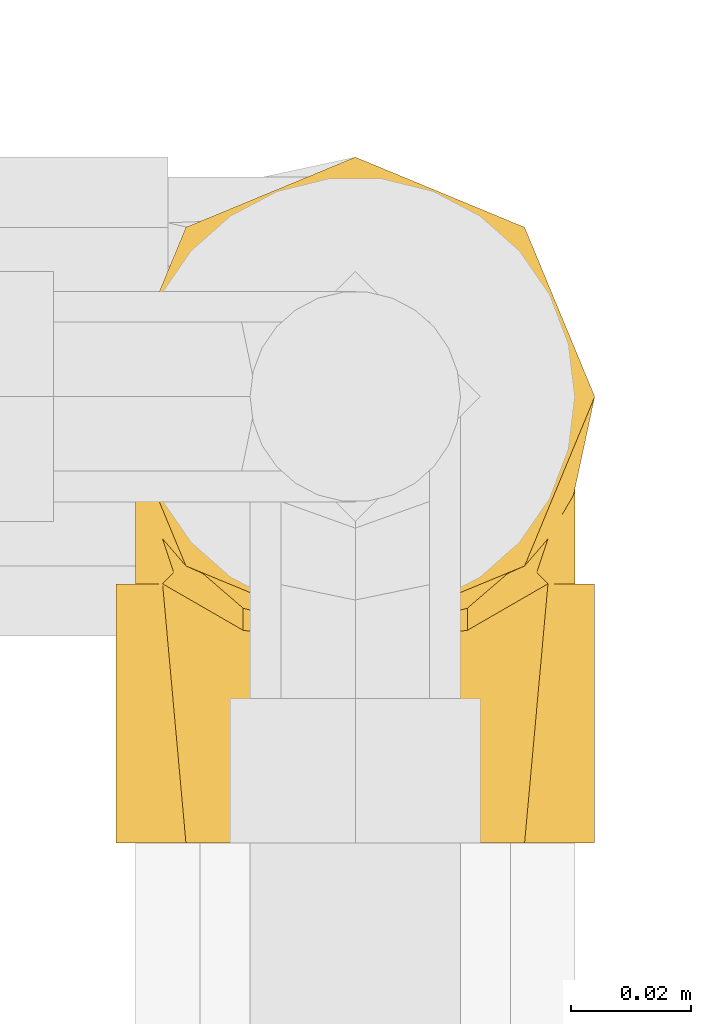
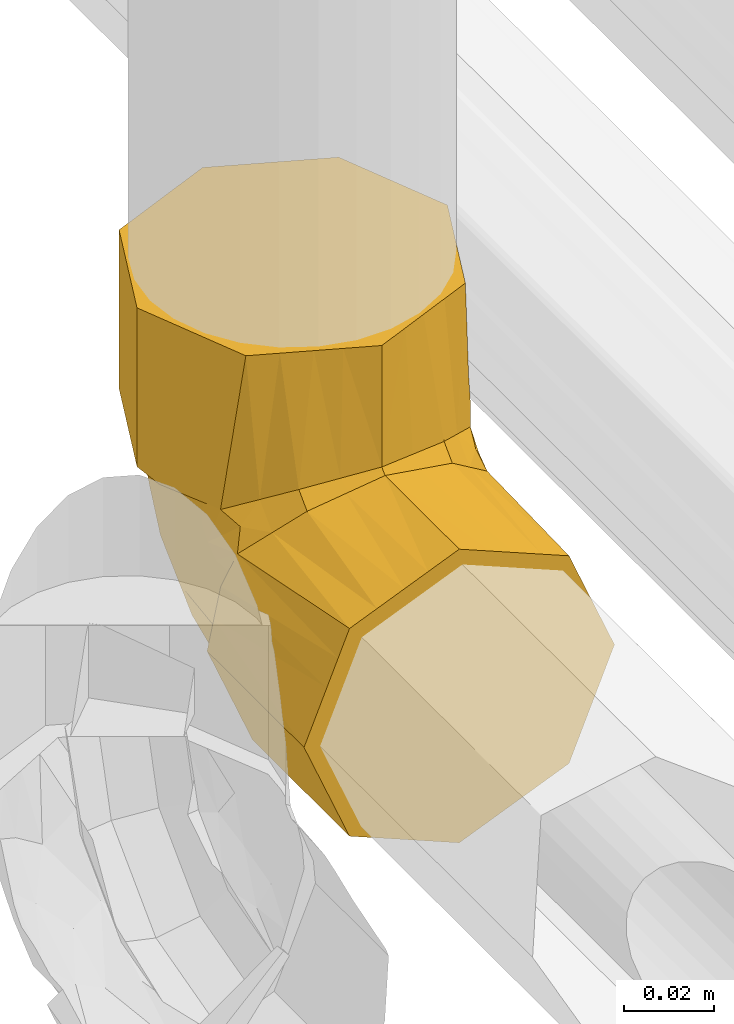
# One storey, part 266 of 652: 1 covering.
"""IFC2X3 building model written with IfcOpenShell, lengths in millimetres."""

from ifc_helpers import new_model, entity, si_unit, converted_unit, direction, frame, origin, place, context, subcontext, project, spatial, faceted_brep, material, type_object, element, save


model = new_model("IFC2X3")

# Units and contexts
model_context = context("Model", 3, precision=0.01, world=frame((0.0, 0.0, 308426.39999999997)), true_north=direction((6.123233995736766e-17, 1.0)))
plan_context = context("Plan", 3, precision=0.01, world=frame((0.0, 0.0, 308426.39999999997)), true_north=direction((6.123233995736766e-17, 1.0)))
body_context = subcontext(model_context, "Body", "Model", "MODEL_VIEW")
ifc_project = project(units=[si_unit("LENGTHUNIT", "METRE", prefix="MILLI"), si_unit("AREAUNIT", "SQUARE_METRE"), si_unit("VOLUMEUNIT", "CUBIC_METRE"), converted_unit("PLANEANGLEUNIT", "DEGREE", entity("IfcPlaneAngleMeasure", 0.017453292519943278), si_unit("PLANEANGLEUNIT", "RADIAN"), dimensions=[0, 0, 0, 0, 0, 0, 0])], contexts=[model_context, plan_context])

# Site, building, storey
site_placement = place(None, origin())
site = spatial("IfcSite", under=ifc_project, at=site_placement, Name="Default", CompositionType="ELEMENT")
building_placement = place(site_placement, origin())
building = spatial("IfcBuilding", under=site, at=building_placement, CompositionType="ELEMENT")
storey_placement = place(building_placement, frame((0.0, 0.0, 1730.6999999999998)))
storey = spatial("IfcBuildingStorey", under=building, at=storey_placement, Name="EG_Produktion_FFB", CompositionType="ELEMENT", Elevation=1730.6999999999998)

# Covering
ifc_material = material(Name="Dämmung - Armaflex-Schlauch")
covering_type = type_object("IfcCoveringType", Name="Rohrdämmung außen:Armaflex-Schlauch", PredefinedType="INSULATION")
covering_placement = place(storey_placement, frame((77638.64672776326, 68090.91574999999, 3558.646727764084)))
element("IfcCovering", 1, at=covering_placement, inside=storey, type_object=covering_type, material=ifc_material, Name="Rohrdämmung außen:Armaflex-Schlauch", ObjectType="Rohrdämmung außen:Armaflex-Schlauch", PredefinedType="INSULATION", context=body_context, shape_type="Brep", body=[
    faceted_brep([(76.62300673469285, 60.144076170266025, 72.43177223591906), (77.08951820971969, 64.13185283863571, 72.43177223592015), (77.81577223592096, 70.33992920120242, 72.43177223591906), (74.37467999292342, 77.97579246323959, 72.43177223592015), (70.93358774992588, 85.61165572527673, 72.43177223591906), (67.70657048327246, 92.7724816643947, 72.43177223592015), (64.47955321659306, 99.933307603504, 72.43177223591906), (52.916412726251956, 104.1842912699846, 72.43177223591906), (41.35327223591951, 108.43527493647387, 72.43177223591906), (34.139683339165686, 104.78589932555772, 72.43177223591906), (26.926094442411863, 101.13652371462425, 72.43177223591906), (19.712505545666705, 97.48714810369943, 72.43177223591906), (12.498916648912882, 93.83777249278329, 72.43177223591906), (10.12212716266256, 86.49703027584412, 72.43177223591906), (7.506449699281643, 78.41847973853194, 72.43177223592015), (4.890772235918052, 70.33992920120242, 72.43177223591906), (5.617026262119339, 64.13185283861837, 72.43177223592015), (6.083537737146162, 60.144076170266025, 72.43177223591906), (7.721836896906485, 55.31227974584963, 72.43177223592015), (9.36013605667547, 50.48048332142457, 72.43177223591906), (5.923104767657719, 58.097888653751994, 72.43177223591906), (2.486073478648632, 65.71529398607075, 72.43177223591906), (1.5952722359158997, 74.08425000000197, 72.43177223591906), (4.907228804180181, 82.08002046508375, 72.43177223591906), (7.417696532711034, 88.14082570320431, 72.43177223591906), (10.3289086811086, 95.16911355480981, 72.43177223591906), (13.240120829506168, 102.19740140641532, 72.43177223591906), (20.26840868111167, 105.10861355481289, 72.43177223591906), (27.296696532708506, 108.01982570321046, 72.43177223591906), (34.32498438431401, 110.93103785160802, 72.43177223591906), (41.35327223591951, 113.84224999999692, 72.43177223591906), (49.349042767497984, 110.53029340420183, 72.43177223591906), (55.40984793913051, 108.01982570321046, 72.43177223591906), (62.43813579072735, 105.10861355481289, 72.43177223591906), (69.46642364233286, 102.19740140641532, 72.43177223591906), (72.37763579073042, 95.16911355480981, 72.43177223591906), (75.28884793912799, 88.14082570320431, 72.43177223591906), (77.79931619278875, 82.0800191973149, 72.43177223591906), (81.11127223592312, 74.08425000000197, 72.43177223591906), (79.3520811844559, 65.9082384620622, 72.43177223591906), (77.59289013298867, 57.73222692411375, 72.43177223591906), (73.34640841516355, 50.48048332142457, 72.43177223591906), (74.98470757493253, 55.31227974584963, 72.43177223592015), (4.506484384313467, 67.05596214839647, 115.43752223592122), (7.417696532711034, 60.02767429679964, 115.43752223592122), (10.328908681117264, 52.9993864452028, 115.43752223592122), (13.240120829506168, 45.971098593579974, 115.43752223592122), (20.26840868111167, 43.05988644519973, 115.43752223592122), (27.296696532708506, 40.1486742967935, 115.43752223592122), (33.35750154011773, 37.63820666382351, 115.43752223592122), (41.35327223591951, 34.32624999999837, 115.43752223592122), (49.34904130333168, 37.63820598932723, 115.43752223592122), (55.40984793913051, 40.1486742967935, 115.43752223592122), (62.43813579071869, 43.05988644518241, 115.43752223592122), (69.46642364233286, 45.971098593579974, 115.43752223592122), (72.37763579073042, 52.99938644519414, 115.43752223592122), (75.28884793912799, 60.02767429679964, 115.43752223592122), (78.20006008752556, 67.05596214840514, 115.43752223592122), (81.11127223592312, 74.08425000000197, 115.43752223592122), (78.20006008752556, 81.11253785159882, 115.43752223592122), (75.28884793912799, 88.14082570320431, 115.43752223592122), (72.37763579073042, 95.16911355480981, 115.43752223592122), (69.46642364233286, 102.19740140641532, 115.43752223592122), (62.43813579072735, 105.10861355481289, 115.43752223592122), (55.40984793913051, 108.01982570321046, 115.43752223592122), (48.38156008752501, 110.93103785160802, 115.43752223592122), (41.35327223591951, 113.84224999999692, 115.43752223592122), (34.32498438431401, 110.93103785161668, 115.43752223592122), (27.296696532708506, 108.01982570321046, 115.43752223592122), (20.26840868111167, 105.10861355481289, 115.43752223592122), (13.240120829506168, 102.19740140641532, 115.43752223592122), (8.219185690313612, 90.0757916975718, 115.43752223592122), (4.907228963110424, 82.08002084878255, 115.43752223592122), (1.5952722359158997, 74.08425000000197, 115.43752223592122), (16.057183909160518, 44.71268924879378, 76.29438305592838), (41.35327223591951, 34.32624999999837, 82.55017689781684), (32.053751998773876, 36.63557258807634, 81.35358538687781), (22.754231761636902, 38.94489517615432, 80.15699387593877), (27.40399188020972, 37.79023388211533, 80.75528963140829), (66.6493605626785, 44.71268924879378, 76.29438305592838), (50.65279247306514, 36.63557258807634, 81.35358538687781), (59.952312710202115, 38.94489517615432, 80.15699387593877), (45.661736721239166, 35.39615835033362, 81.99579646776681), (81.11127223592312, 43.00574999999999, 41.35327223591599), (77.7993156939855, 43.00574999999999, 33.35750183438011), (75.28884793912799, 43.00574999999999, 27.296696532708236), (72.37763579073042, 43.00574999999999, 20.2684086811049), (69.46642364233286, 43.00574999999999, 13.240120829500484), (62.43813579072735, 43.00574999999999, 10.328908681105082), (55.40984793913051, 43.00574999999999, 7.4176965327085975), (49.34904137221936, 43.00574999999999, 4.907228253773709), (41.35327223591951, 43.00574999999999, 1.595272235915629), (33.357502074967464, 43.00574999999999, 4.907228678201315), (27.296696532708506, 43.00574999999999, 7.4176965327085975), (20.26840868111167, 43.00574999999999, 10.328908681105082), (13.240120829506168, 43.00574999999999, 13.240120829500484), (10.3289086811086, 43.00574999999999, 20.2684086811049), (7.417696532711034, 43.00574999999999, 27.296696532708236), (4.506484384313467, 43.00574999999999, 34.32498438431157), (1.5952722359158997, 43.00574999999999, 41.35327223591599), (3.3544632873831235, 43.00574999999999, 49.52928377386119), (5.113654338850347, 43.00574999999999, 57.705295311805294), (9.36013605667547, 43.00574999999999, 64.95703891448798), (7.721836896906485, 43.00574999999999, 60.12524249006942), (6.083537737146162, 43.00574999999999, 55.29344606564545), (5.617026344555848, 43.00574999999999, 51.305670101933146), (5.253899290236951, 43.00575000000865, 48.20163156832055), (4.890772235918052, 43.00574999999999, 45.09759303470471), (8.224826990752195, 43.00574999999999, 37.69924843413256), (11.558881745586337, 43.00574999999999, 30.30090383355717), (14.892936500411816, 43.00574999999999, 22.90255923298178), (18.22699125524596, 43.00574999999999, 15.504214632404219), (24.00856150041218, 43.00574999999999, 13.378722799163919), (29.790131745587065, 43.00574999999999, 11.253230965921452), (41.35327223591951, 43.00574999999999, 7.00224729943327), (48.56686113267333, 43.00574999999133, 10.651622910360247), (55.78045002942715, 43.00574999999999, 14.300998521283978), (62.99403892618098, 43.00574999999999, 17.950374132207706), (70.2076278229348, 43.00574999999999, 21.599749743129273), (72.10966392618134, 43.00574999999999, 27.47421056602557), (74.01170002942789, 43.00574999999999, 33.3486713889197), (77.81577223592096, 43.00574999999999, 45.097593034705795), (77.45264518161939, 43.00574999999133, 48.20163156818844), (77.08951812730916, 43.00574999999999, 51.30567010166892), (76.62300673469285, 43.00574999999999, 55.29344606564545), (74.98470757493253, 43.00574999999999, 60.12524249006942), (73.34640841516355, 43.00574999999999, 64.95703891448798), (76.78343970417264, 43.00574999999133, 57.33963358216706), (80.22047099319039, 43.00574999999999, 49.72222824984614), (4.506484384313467, 0.0, 34.32498438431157), (7.417696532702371, 0.0, 27.296696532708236), (10.3289086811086, 0.0, 20.2684086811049), (13.240120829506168, 0.0, 13.240120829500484), (25.361730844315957, 0.0, 8.219185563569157), (33.35750154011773, 0.0, 4.907228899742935), (41.35327223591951, 0.0, 1.595272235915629), (48.38156008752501, 0.0, 4.506484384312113), (55.40984793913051, 0.0, 7.4176965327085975), (62.43813579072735, 0.0, 10.328908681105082), (69.46642364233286, 0.0, 13.240120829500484), (72.37763579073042, 0.0, 20.2684086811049), (75.28884793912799, 0.0, 27.296696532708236), (78.20006008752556, 0.0, 34.32498438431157), (81.11127223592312, 0.0, 41.35327223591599), (78.20006008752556, 0.0, 48.381560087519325), (75.28884793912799, 0.0, 55.40984793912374), (72.37763579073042, 0.0, 62.43813579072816), (69.46642364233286, 0.0, 69.46642364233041), (62.43813579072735, 0.0, 72.37763579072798), (55.40984793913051, 0.0, 75.28884793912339), (49.34904309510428, 0.0, 77.79931550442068), (41.35327223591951, 0.0, 81.11127223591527), (33.357503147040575, 0.0, 77.79931623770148), (27.296696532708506, 0.0, 75.28884793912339), (20.26840868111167, 0.0, 72.3776357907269), (13.240120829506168, 0.0, 69.46642364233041), (10.3289086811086, 0.0, 62.43813579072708), (7.417696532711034, 0.0, 55.40984793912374), (4.907228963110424, 0.0, 49.3490430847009), (1.5952722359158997, 0.0, 41.35327223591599), (41.35327223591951, 32.88734533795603, 81.11127223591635), (32.05375199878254, 34.08393684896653, 78.80194964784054), (22.754231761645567, 35.28052835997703, 76.49262705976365), (32.73634342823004, 33.99610617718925, 78.9714555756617), (16.057183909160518, 39.14313917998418, 70.72483298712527), (66.6493605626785, 39.14313917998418, 70.72483298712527), (50.65279247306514, 34.08393684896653, 78.80194964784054), (59.95231271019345, 35.28052835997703, 76.49262705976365), (49.97020104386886, 33.99610617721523, 78.97145557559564), (45.661736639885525, 33.44172575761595, 80.0413639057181), (12.120840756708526, 58.15798394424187, 28.191891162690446), (11.864597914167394, 86.24095977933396, 56.18214307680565), (8.378054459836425, 75.44074579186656, 50.651839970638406), (4.890772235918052, 63.77170858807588, 60.99290399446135), (5.704430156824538, 71.00987826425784, 57.90068245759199), (5.818095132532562, 60.331775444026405, 45.89691656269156), (14.280504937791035, 74.68952203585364, 36.824791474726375), (17.28056825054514, 90.56777273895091, 51.80452200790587), (41.35327223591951, 77.92193606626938, 23.738422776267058), (33.2832979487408, 68.63523148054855, 18.343722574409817), (32.936990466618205, 87.87776584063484, 34.50848979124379), (41.35327223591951, 100.80694021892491, 60.2584348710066), (31.923106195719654, 100.51907102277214, 53.7239646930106), (20.52086951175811, 79.2111421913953, 33.526882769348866), (4.890772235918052, 45.389360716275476, 46.9221287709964), (4.890772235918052, 47.77297143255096, 48.74666450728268), (4.890772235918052, 52.54019286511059, 52.39573597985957), (4.890772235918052, 58.15595072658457, 56.69431998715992), (17.18561506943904, 60.497283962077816, 23.195268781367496), (23.49848008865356, 90.87485767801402, 44.19541988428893), (22.48243663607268, 98.10238846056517, 58.02828772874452), (24.51166214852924, 69.59848600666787, 22.77241248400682), (26.852776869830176, 81.49627628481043, 30.82883287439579), (41.35327223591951, 60.46384303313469, 15.370335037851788), (41.35327223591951, 59.30685202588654, 14.815761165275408), (41.35327223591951, 93.17860550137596, 48.08509750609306), (41.35327223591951, 89.44118018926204, 42.12089419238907), (41.35327223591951, 85.55027078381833, 35.91176014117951), (26.95482375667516, 57.682944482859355, 14.939393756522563), (8.90939071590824, 62.35315634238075, 36.834059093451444), (41.35327223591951, 98.93822756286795, 57.276333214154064), (4.890772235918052, 67.32420901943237, 67.17975226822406), (5.540058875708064, 59.547719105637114, 66.8260998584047), (6.751916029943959, 54.28952280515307, 67.53281751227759), (41.35327223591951, 33.63371593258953, 81.80380630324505), (6.670824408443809, 51.45915617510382, 63.97836554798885), (11.210836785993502, 44.908883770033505, 70.52863875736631), (6.751916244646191, 47.904704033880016, 61.14799970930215), (5.555021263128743, 48.5166417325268, 55.918821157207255), (77.16648559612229, 59.54771910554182, 66.8260998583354), (77.81577223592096, 67.32420901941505, 67.17975226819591), (71.49570746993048, 44.90888341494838, 70.52863885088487), (76.03571971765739, 51.45915542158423, 63.978366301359), (75.95462843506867, 54.289522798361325, 67.53281753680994), (77.81577223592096, 58.15595072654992, 56.69431998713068), (75.95462822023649, 47.904704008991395, 61.14799971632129), (77.15152320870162, 48.51664173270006, 55.91882115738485), (77.81577223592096, 47.77297143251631, 48.74666450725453), (77.81577223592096, 63.77170858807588, 60.99290399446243), (77.81577223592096, 45.389360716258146, 46.922128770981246), (77.81577223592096, 52.54019286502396, 52.395735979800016), (74.80598737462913, 77.88884430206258, 55.82565961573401), (71.5622524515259, 85.68390575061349, 57.28959429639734), (75.79919171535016, 57.20212685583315, 39.02450620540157), (50.8847120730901, 85.21783817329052, 32.063467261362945), (65.94296495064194, 76.99963686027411, 35.56661217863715), (73.58946657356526, 68.28685011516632, 40.993703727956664), (68.10768824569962, 64.58632217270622, 28.53498924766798), (76.81449307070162, 64.72447259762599, 49.33889122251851), (76.81985109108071, 73.0393897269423, 59.448940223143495), (67.36791849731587, 85.65544995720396, 47.62726014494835), (60.18508487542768, 75.83338581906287, 28.791268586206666), (51.08904624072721, 65.65295551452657, 17.08473225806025), (60.01109950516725, 60.45142062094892, 18.640175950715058), (73.08709853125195, 57.30670812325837, 32.102457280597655), (58.13792656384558, 95.65270419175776, 50.634728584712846), (61.63866824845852, 86.33050767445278, 40.67615020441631), (65.97235995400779, 94.01862068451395, 59.442278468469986), (49.62375736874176, 97.03201021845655, 46.78958221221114)], [[[0, 1, 2, 3, 4, 5, 6, 7, 8, 9, 10, 11, 12, 13, 14, 15, 16, 17, 18, 19, 20, 21, 22, 23, 24, 25, 26, 27, 28, 29, 30, 31, 32, 33, 34, 35, 36, 37, 38, 39, 40, 41, 42]], [[43, 44, 45, 46, 47, 48, 49, 50, 51, 52, 53, 54, 55, 56, 57, 58, 59, 60, 61, 62, 63, 64, 65, 66, 67, 68, 69, 70, 71, 72, 73]], [[47, 46, 74]], [[75, 50, 49]], [[76, 75, 49]], [[48, 77, 78, 76]], [[47, 74, 77]], [[44, 20, 45]], [[43, 21, 44]], [[46, 19, 74]], [[77, 48, 47]], [[44, 21, 20]], [[43, 22, 21]], [[48, 76, 49]], [[43, 73, 22]], [[45, 20, 19]], [[19, 46, 45]], [[23, 22, 73, 72, 71, 70, 26, 25, 24]], [[26, 70, 69, 68, 67, 66, 30, 29, 28, 27]], [[38, 37, 36, 35, 34, 62, 61, 60, 59, 58]], [[30, 66, 65, 64, 63, 62, 34, 33, 32, 31]], [[56, 40, 39]], [[53, 79, 54]], [[39, 57, 56]], [[41, 55, 54]], [[40, 55, 41]], [[80, 52, 51]], [[52, 80, 81]], [[58, 57, 38]], [[51, 75, 82, 80]], [[38, 57, 39]], [[79, 53, 81]], [[55, 40, 56]], [[51, 50, 75]], [[53, 52, 81]], [[79, 41, 54]], [[83, 84, 85, 86, 87, 88, 89, 90, 91, 92, 93, 94, 95, 96, 97, 98, 99, 100, 101, 102, 103, 104, 105, 106, 107, 108, 109, 110, 111, 112, 113, 114, 115, 116, 117, 118, 119, 120, 121, 122, 123, 124, 125, 126, 127, 128]], [[129, 130, 131, 132, 133, 134, 135, 136, 137, 138, 139, 140, 141, 142, 143, 144, 145, 146, 147, 148, 149, 150, 151, 152, 153, 154, 155, 156, 157, 158, 159]], [[135, 134, 133, 132, 95, 94, 93, 92, 91]], [[95, 132, 131, 130, 129, 159, 99, 98, 97, 96]], [[159, 158, 157, 100]], [[101, 156, 102]], [[99, 159, 100]], [[101, 100, 157]], [[152, 151, 160]], [[102, 156, 155]], [[153, 161, 162]], [[161, 153, 152]], [[152, 160, 163, 161]], [[154, 164, 155]], [[164, 154, 162]], [[156, 101, 157]], [[154, 153, 162]], [[164, 102, 155]], [[148, 147, 165]], [[149, 166, 150]], [[166, 149, 167]], [[160, 151, 150]], [[148, 165, 167]], [[145, 127, 146]], [[144, 128, 145]], [[147, 126, 165]], [[167, 149, 148]], [[145, 128, 127]], [[144, 83, 128]], [[150, 166, 168, 169, 160]], [[144, 143, 83]], [[146, 127, 126]], [[126, 147, 146]], [[91, 90, 89, 88, 87, 139, 138, 137, 136, 135]], [[141, 140, 139, 87, 86, 85, 84, 83, 143, 142]], [[109, 170, 110]], [[13, 171, 172]], [[14, 13, 172]], [[173, 174, 175]], [[176, 171, 177]], [[15, 14, 174]], [[178, 179, 180]], [[9, 181, 182]], [[172, 175, 174]], [[13, 12, 171]], [[12, 11, 177]], [[176, 177, 183]], [[175, 107, 184, 185, 186, 187, 173]], [[188, 170, 176]], [[176, 172, 171]], [[189, 190, 182]], [[11, 10, 190]], [[177, 11, 190]], [[170, 188, 110]], [[191, 183, 192]], [[179, 178, 193, 194]], [[182, 190, 10]], [[182, 195, 180]], [[177, 190, 189]], [[182, 10, 9]], [[180, 195, 196, 197, 178]], [[177, 189, 183]], [[177, 171, 12]], [[113, 179, 194]], [[189, 182, 180]], [[112, 111, 198, 113]], [[198, 111, 188]], [[194, 114, 113]], [[179, 191, 192]], [[199, 175, 172]], [[199, 108, 175]], [[172, 176, 199]], [[188, 111, 110]], [[199, 170, 109]], [[183, 188, 176]], [[108, 199, 109]], [[188, 191, 198]], [[108, 107, 175]], [[176, 170, 199]], [[192, 189, 180]], [[188, 183, 191]], [[189, 192, 183]], [[179, 192, 180]], [[181, 9, 8]], [[182, 181, 200, 195]], [[191, 179, 198]], [[179, 113, 198]], [[174, 173, 201, 15]], [[172, 174, 14]], [[173, 202, 201]], [[173, 187, 203]], [[18, 203, 19]], [[201, 17, 16, 15]], [[204, 76, 163]], [[74, 164, 162, 77]], [[163, 76, 78, 77, 162, 161]], [[205, 102, 206]], [[206, 164, 74]], [[106, 105, 104, 185, 184, 107]], [[205, 207, 102]], [[186, 185, 208, 187]], [[204, 75, 76]], [[163, 160, 204]], [[205, 206, 19]], [[164, 206, 102]], [[203, 205, 19]], [[19, 206, 74]], [[201, 202, 17]], [[17, 202, 18]], [[203, 202, 173]], [[18, 202, 203]], [[102, 207, 103]], [[103, 208, 104]], [[207, 205, 187]], [[208, 103, 207]], [[208, 185, 104]], [[187, 208, 207]], [[203, 187, 205]], [[204, 160, 169]], [[209, 210, 0]], [[169, 168, 166, 167, 81, 80, 82]], [[41, 211, 212]], [[1, 0, 210, 2]], [[213, 212, 214]], [[204, 169, 82]], [[79, 165, 211]], [[126, 125, 215]], [[212, 211, 126]], [[204, 82, 75]], [[167, 165, 79, 81]], [[216, 124, 217]], [[218, 209, 213]], [[122, 121, 219, 217, 124, 123]], [[41, 79, 211]], [[211, 165, 126]], [[209, 0, 42]], [[125, 124, 216]], [[126, 215, 212]], [[125, 216, 215]], [[220, 214, 216, 217]], [[213, 42, 41]], [[212, 213, 41]], [[210, 209, 218]], [[214, 212, 215]], [[209, 42, 213]], [[215, 216, 214]], [[218, 213, 214]], [[4, 221, 222]], [[223, 121, 120]], [[224, 178, 197, 196]], [[225, 226, 227]], [[228, 226, 221]], [[229, 218, 228]], [[222, 226, 230]], [[231, 232, 224]], [[3, 229, 221]], [[233, 232, 231]], [[234, 223, 120]], [[229, 2, 210, 218]], [[224, 235, 236]], [[4, 3, 221]], [[228, 218, 214, 220, 217, 219, 121]], [[237, 222, 230]], [[6, 235, 7]], [[235, 6, 237]], [[238, 200, 7]], [[228, 223, 226]], [[224, 238, 235]], [[234, 226, 223]], [[227, 117, 233]], [[193, 232, 115]], [[224, 232, 178]], [[115, 114, 194, 193]], [[235, 237, 236]], [[238, 224, 196]], [[226, 222, 221]], [[222, 237, 5]], [[5, 237, 6]], [[5, 4, 222]], [[237, 230, 236]], [[7, 200, 181, 8]], [[7, 235, 238]], [[238, 196, 195, 200]], [[227, 118, 117]], [[193, 178, 232]], [[231, 236, 225]], [[233, 117, 116]], [[232, 233, 116]], [[227, 233, 231]], [[229, 3, 2]], [[228, 221, 229]], [[121, 223, 228]], [[119, 118, 234, 120]], [[234, 118, 227]], [[227, 226, 234]], [[232, 116, 115]], [[225, 236, 230]], [[224, 236, 231]], [[226, 225, 230]], [[231, 225, 227]]]),
])

save(model, "model.ifc")
